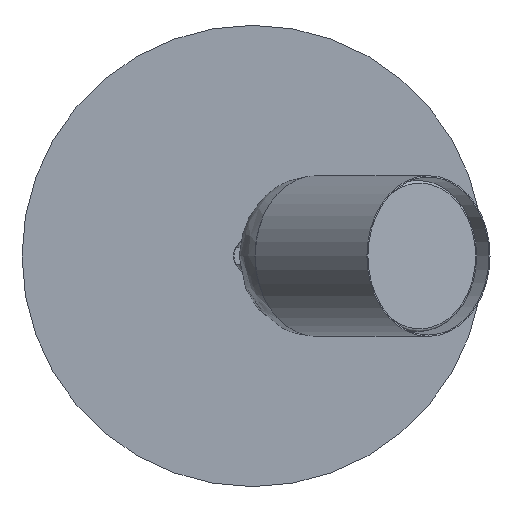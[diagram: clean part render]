
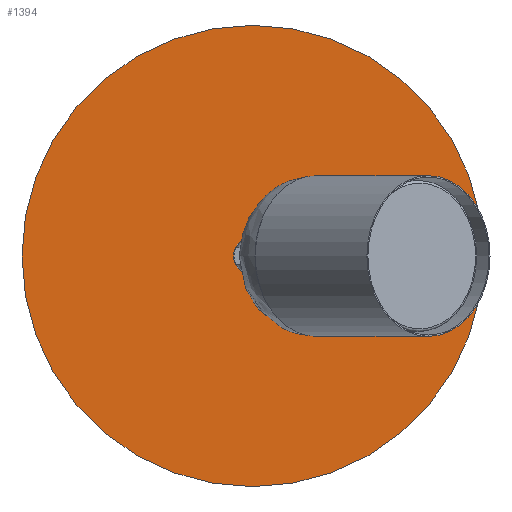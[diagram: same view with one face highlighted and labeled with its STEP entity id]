
A CAD part, front view. The second image highlights one B-rep face of the part: STEP entity #1394.
In plain terms, the highlighted planar face has unit normal (0, -1, 0).
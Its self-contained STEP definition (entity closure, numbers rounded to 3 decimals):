
#201=FACE_OUTER_BOUND('',#292,.T.);
#292=EDGE_LOOP('',(#1242));
#551=CIRCLE('',#1587,77.5);
#679=VERTEX_POINT('',#2756);
#867=EDGE_CURVE('',#679,#679,#551,.T.);
#1242=ORIENTED_EDGE('',*,*,#867,.F.);
#1306=PLANE('',#1589);
#1394=ADVANCED_FACE('',(#201),#1306,.F.);
#1587=AXIS2_PLACEMENT_3D('',#2758,#1978,#1979);
#1589=AXIS2_PLACEMENT_3D('',#2760,#1982,#1983);
#1978=DIRECTION('center_axis',(0.,1.,0.));
#1979=DIRECTION('ref_axis',(1.,0.,0.));
#1982=DIRECTION('center_axis',(0.,1.,0.));
#1983=DIRECTION('ref_axis',(1.,0.,0.));
#2756=CARTESIAN_POINT('',(-77.5,0.,0.));
#2758=CARTESIAN_POINT('Origin',(0.,0.,0.));
#2760=CARTESIAN_POINT('Origin',(0.,0.,0.));
